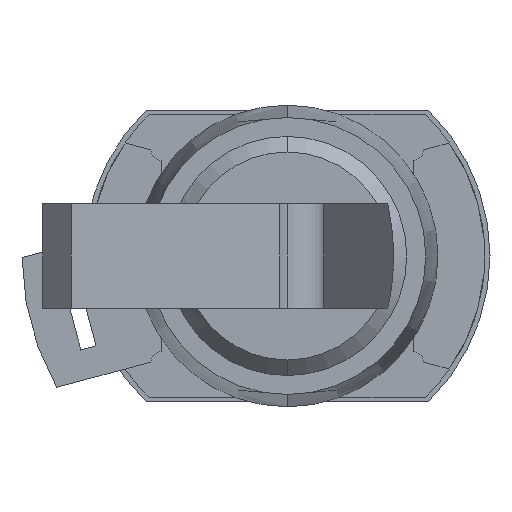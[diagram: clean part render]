
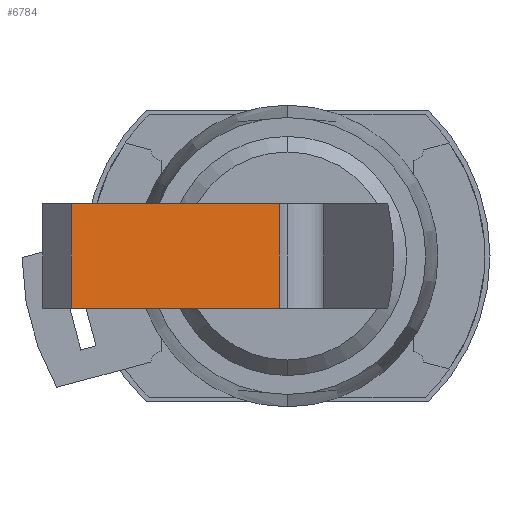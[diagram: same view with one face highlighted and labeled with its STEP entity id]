
A CAD part, left-side view. The second image highlights one B-rep face of the part: STEP entity #6784.
In plain terms, the highlighted planar face has unit normal (-0.729, -0.685, 0).
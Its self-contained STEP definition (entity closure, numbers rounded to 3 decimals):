
#125 = LINE ( 'NONE', #126, #127 ) ;
#126 = CARTESIAN_POINT ( 'NONE',  ( -16.659, 20.76, -5. ) ) ;
#127 = VECTOR ( 'NONE', #128, 1000. ) ;
#128 = DIRECTION ( 'NONE',  ( 0.685, -0.729, 0. ) ) ;
#777 = CARTESIAN_POINT ( 'NONE',  ( -16.659, 20.76, 5. ) ) ;
#947 = LINE ( 'NONE', #948, #951 ) ;
#948 = CARTESIAN_POINT ( 'NONE',  ( 2.175, 0.723, -5. ) ) ;
#951 = VECTOR ( 'NONE', #952, 1000. ) ;
#952 = DIRECTION ( 'NONE',  ( -0.685, 0.729, 0. ) ) ;
#1053 = CARTESIAN_POINT ( 'NONE',  ( 2.175, 0.723, -5. ) ) ;
#1156 = CARTESIAN_POINT ( 'NONE',  ( -1.5, 4.633, -5. ) ) ;
#3078 = ORIENTED_EDGE ( 'NONE', *, *, #3153, .F. ) ;
#3153 = EDGE_CURVE ( 'NONE', #4275, #5566, #7106, .T. ) ;
#3946 = EDGE_CURVE ( 'NONE', #3991, #4275, #9817, .T. ) ;
#3991 = VERTEX_POINT ( 'NONE', #9991 ) ;
#4059 = ORIENTED_EDGE ( 'NONE', *, *, #4086, .T. ) ;
#4086 = EDGE_CURVE ( 'NONE', #3991, #4415, #125, .T. ) ;
#4275 = VERTEX_POINT ( 'NONE', #777 ) ;
#4325 = EDGE_CURVE ( 'NONE', #4376, #4415, #947, .T. ) ;
#4362 = ORIENTED_EDGE ( 'NONE', *, *, #3946, .F. ) ;
#4376 = VERTEX_POINT ( 'NONE', #1053 ) ;
#4415 = VERTEX_POINT ( 'NONE', #1156 ) ;
#4956 = ORIENTED_EDGE ( 'NONE', *, *, #5012, .F. ) ;
#5012 = EDGE_CURVE ( 'NONE', #5039, #4376, #7225, .T. ) ;
#5039 = VERTEX_POINT ( 'NONE', #7424 ) ;
#5104 = ORIENTED_EDGE ( 'NONE', *, *, #5429, .T. ) ;
#5429 = EDGE_CURVE ( 'NONE', #5039, #5566, #8047, .T. ) ;
#5566 = VERTEX_POINT ( 'NONE', #8177 ) ;
#6784 = ADVANCED_FACE ( 'NONE', ( #9131 ), #9132, .T. ) ;
#7106 = LINE ( 'NONE', #7107, #7108 ) ;
#7107 = CARTESIAN_POINT ( 'NONE',  ( -16.659, 20.76, 5. ) ) ;
#7108 = VECTOR ( 'NONE', #7115, 1000. ) ;
#7113 = EDGE_LOOP ( 'NONE', ( #7419, #4956, #5104, #3078, #4362, #4059 ) ) ;
#7115 = DIRECTION ( 'NONE',  ( 0.685, -0.729, 0. ) ) ;
#7225 = LINE ( 'NONE', #7226, #7227 ) ;
#7226 = CARTESIAN_POINT ( 'NONE',  ( 2.175, 0.723, 0. ) ) ;
#7227 = VECTOR ( 'NONE', #7228, 1000. ) ;
#7228 = DIRECTION ( 'NONE',  ( 0., 0., -1. ) ) ;
#7419 = ORIENTED_EDGE ( 'NONE', *, *, #4325, .F. ) ;
#7424 = CARTESIAN_POINT ( 'NONE',  ( 2.175, 0.723, 5. ) ) ;
#8047 = LINE ( 'NONE', #8048, #8049 ) ;
#8048 = CARTESIAN_POINT ( 'NONE',  ( 2.175, 0.723, 5. ) ) ;
#8049 = VECTOR ( 'NONE', #8050, 1000. ) ;
#8050 = DIRECTION ( 'NONE',  ( -0.685, 0.729, 0. ) ) ;
#8177 = CARTESIAN_POINT ( 'NONE',  ( -1.5, 4.633, 5. ) ) ;
#9131 = FACE_OUTER_BOUND ( 'NONE', #7113, .T. ) ;
#9132 = PLANE ( 'NONE',  #9133 ) ;
#9133 = AXIS2_PLACEMENT_3D ( 'NONE', #9134, #9135, #9140 ) ;
#9134 = CARTESIAN_POINT ( 'NONE',  ( 2.175, 0.723, 0. ) ) ;
#9135 = DIRECTION ( 'NONE',  ( -0.729, -0.685, 0. ) ) ;
#9140 = DIRECTION ( 'NONE',  ( 0.685, -0.729, 0. ) ) ;
#9817 = LINE ( 'NONE', #9818, #9819 ) ;
#9818 = CARTESIAN_POINT ( 'NONE',  ( -16.659, 20.76, 0. ) ) ;
#9819 = VECTOR ( 'NONE', #9820, 1000. ) ;
#9820 = DIRECTION ( 'NONE',  ( 0., 0., 1. ) ) ;
#9991 = CARTESIAN_POINT ( 'NONE',  ( -16.659, 20.76, -5. ) ) ;
